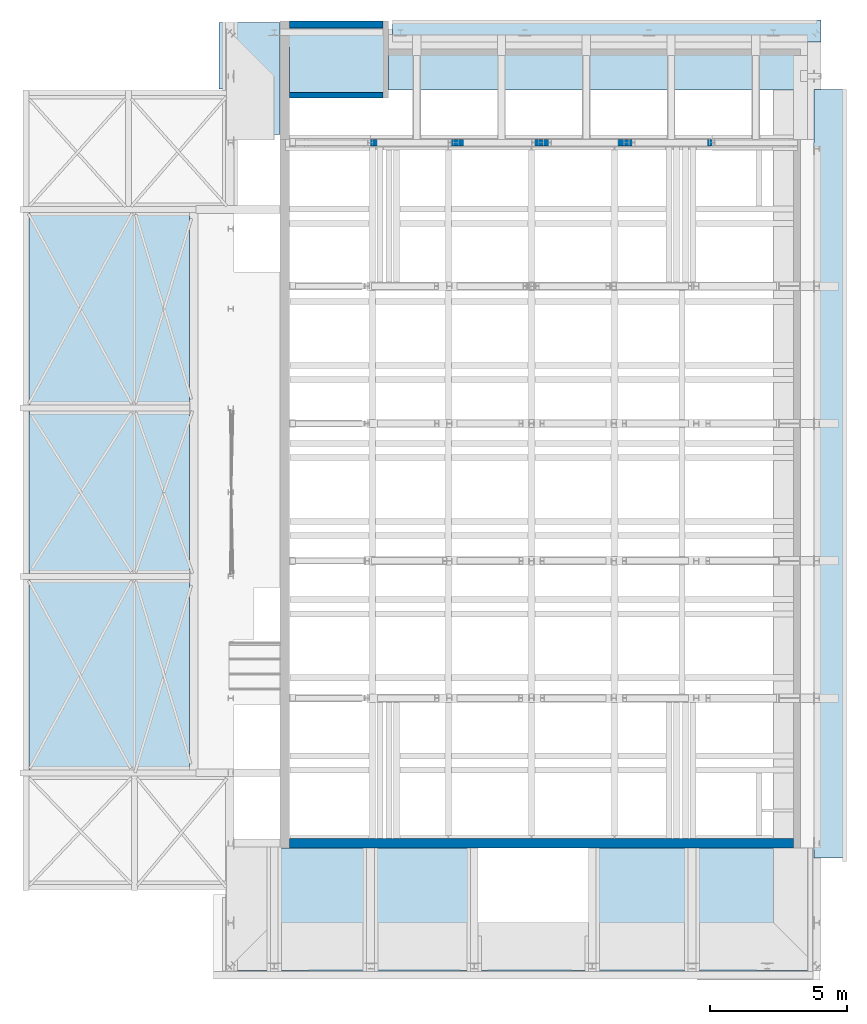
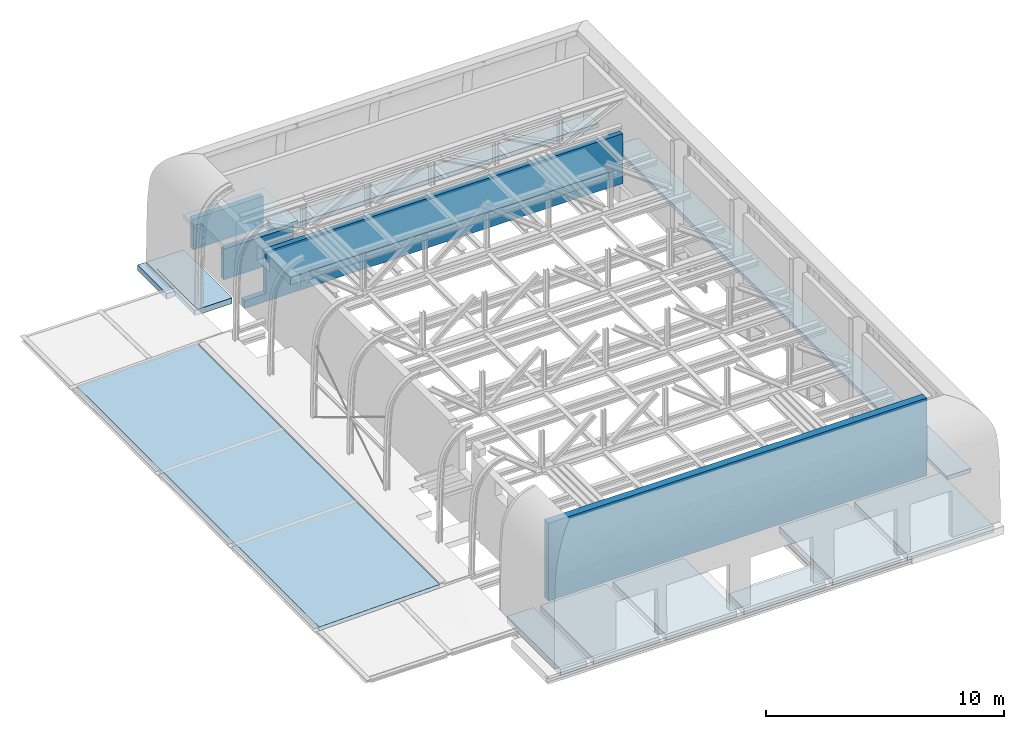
# One storey, part 25 of 29: 7 slabs, 4 walls, 9 openings.
"""IFC2X3 building model written with IfcOpenShell, lengths in millimetres."""

import ifcopenshell
import ifcopenshell.guid

model = None  # the IFC model being written
_history = None  # IfcOwnerHistory: only IFC2X3 demands one
_inside = {}  # id of a spatial element -> (the spatial element, [elements in it])
_under = {}  # id of a project, library or spatial element -> (it, [spatial elements below it])
_declared = {}  # id of a project -> (the project, [libraries it declares])
_typed = {}  # id of a type object -> (the type object, [elements of that type])
_made_of = {}  # id of a material, layer set ... -> (it, [elements and type objects made of it])


def new_model(schema):
    """Start an empty IFC model of exactly this schema.

    Asked for "IFC4X3", IfcOpenShell would pick the latest addendum, in which some entities
    have other attributes; the version numbers below select the first issue.
    IFC2X3 requires an IfcOwnerHistory on every rooted entity: one is made here for all.
    """
    global model, _history
    if schema == "IFC4X3":
        model = ifcopenshell.file(schema_version=(4, 3, 0, 0))
    else:
        model = ifcopenshell.file(schema=schema)
    _inside.clear()
    _under.clear()
    _declared.clear()
    _typed.clear()
    _made_of.clear()
    _history = None
    if model.schema == "IFC2X3":
        org = make("IfcOrganization", Name="unknown")
        user = make(
            "IfcPersonAndOrganization",
            ThePerson=make("IfcPerson", FamilyName="unknown"),
            TheOrganization=org,
        )
        app = make(
            "IfcApplication",
            ApplicationDeveloper=org,
            Version="unknown",
            ApplicationFullName="unknown",
            ApplicationIdentifier="unknown",
        )
        _history = make(
            "IfcOwnerHistory",
            OwningUser=user,
            OwningApplication=app,
            ChangeAction="ADDED",
            CreationDate=0,
        )
    return model


def make(cls, **values):
    """One entity of the class cls with the attributes given. An attribute that is None is left unset."""
    return model.create_entity(
        cls, **{name: value for name, value in values.items() if value is not None}
    )


def entity(cls, *values):
    """Any entity or typed value of the class cls, its attributes in the order of the schema. None: left unset."""
    e = model.create_entity(cls)
    for i, value in enumerate(values):
        if value is not None:
            e[i] = value
    return e


def rooted(cls, **values):
    """An entity with a GlobalId (a new one), such as an element, a storey or a relation."""
    return make(cls, GlobalId=ifcopenshell.guid.new(), OwnerHistory=_history, **values)


def si_unit(unit_type, name, prefix=None):
    """IfcSIUnit, for example si_unit("LENGTHUNIT", "METRE", prefix="MILLI")."""
    return make("IfcSIUnit", UnitType=unit_type, Prefix=prefix, Name=name)


def converted_unit(unit_type, name, factor, base, dimensions=None, offset=None):
    """IfcConversionBasedUnit, such as the inch: factor (a typed value) times the base unit."""
    return make(
        "IfcConversionBasedUnit"
        if offset is None
        else "IfcConversionBasedUnitWithOffset",
        ConversionOffset=offset,
        Dimensions=None
        if dimensions is None
        else entity("IfcDimensionalExponents", *dimensions),
        UnitType=unit_type,
        Name=name,
        ConversionFactor=make(
            "IfcMeasureWithUnit", ValueComponent=factor, UnitComponent=base
        ),
    )


def derived_unit(unit_type, elements):
    """IfcDerivedUnit: a product of units, each with its exponent."""
    return make(
        "IfcDerivedUnit",
        Elements=[
            make("IfcDerivedUnitElement", Unit=unit, Exponent=power)
            for unit, power in elements
        ],
        UnitType=unit_type,
    )


def assignment(units):
    """IfcUnitAssignment: the units of a project."""
    return None if units is None else make("IfcUnitAssignment", Units=units)


def point(xyz):
    """IfcCartesianPoint."""
    return None if xyz is None else make("IfcCartesianPoint", Coordinates=xyz)


def direction(xyz):
    """IfcDirection."""
    return None if xyz is None else make("IfcDirection", DirectionRatios=xyz)


def frame(location, z_axis=None, x_axis=None):
    """IfcAxis2Placement3D, a coordinate frame: its origin and axes. An axis left out is left unset."""
    return make(
        "IfcAxis2Placement3D",
        Location=point(location),
        Axis=direction(z_axis),
        RefDirection=direction(x_axis),
    )


def frame_2d(location, x_axis=None):
    """IfcAxis2Placement2D, a coordinate frame in the plane: its origin and x axis."""
    return make(
        "IfcAxis2Placement2D", Location=point(location), RefDirection=direction(x_axis)
    )


def origin():
    """The frame at (0, 0, 0) with its axes left unset."""
    return frame((0.0, 0.0, 0.0))


def origin_2d_with_axis():
    """The frame at (0, 0) in the plane with the x axis (1, 0) written out."""
    return frame_2d((0.0, 0.0), x_axis=(1.0, 0.0))


def place(relative_to, where):
    """IfcLocalPlacement: puts the frame where relative to a parent placement (None: the world)."""
    return make(
        "IfcLocalPlacement", PlacementRelTo=relative_to, RelativePlacement=where
    )


def context(
    kind, dimensions, precision=None, world=None, true_north=None, identifier=None
):
    """IfcGeometricRepresentationContext, for example the 3D "Model" context."""
    return make(
        "IfcGeometricRepresentationContext",
        ContextIdentifier=identifier,
        ContextType=kind,
        CoordinateSpaceDimension=dimensions,
        Precision=precision,
        WorldCoordinateSystem=world,
        TrueNorth=true_north,
    )


def subcontext(parent, identifier, kind, view, scale=None):
    """IfcGeometricRepresentationSubContext, for example "Body" below "Model"."""
    return make(
        "IfcGeometricRepresentationSubContext",
        ContextIdentifier=identifier,
        ContextType=kind,
        ParentContext=parent,
        TargetScale=scale,
        TargetView=view,
    )


def project(units=None, contexts=None):
    """IfcProject with its units and contexts."""
    return rooted(
        "IfcProject",
        Name="project",
        RepresentationContexts=contexts,
        UnitsInContext=assignment(units),
    )


def spatial(cls, under=None, at=None, **own):
    """A site, building, storey or space (cls), placed at a placement, below another one or the project."""
    s = rooted(cls, ObjectPlacement=at, **own)
    if under is not None:
        _under.setdefault(under.id(), (under, []))[1].append(s)
    return s


def polyline(points):
    """IfcPolyline through the points."""
    return make("IfcPolyline", Points=[point(p) for p in points])


def circle_curve(where, radius):
    """IfcCircle in the frame where."""
    return make("IfcCircle", Position=where, Radius=radius)


def parameter(value):
    """IfcParameterValue: where a trimmed curve begins or ends, as a parameter of its basis curve."""
    return model.create_entity("IfcParameterValue", value)


def trimmed(basis, trim1, trim2, sense, master):
    """IfcTrimmedCurve: the piece of a basis curve between two trims."""
    return make(
        "IfcTrimmedCurve",
        BasisCurve=basis,
        Trim1=trim1,
        Trim2=trim2,
        SenseAgreement=sense,
        MasterRepresentation=master,
    )


def segment(curve, same_sense, transition):
    """IfcCompositeCurveSegment."""
    return make(
        "IfcCompositeCurveSegment",
        Transition=transition,
        SameSense=same_sense,
        ParentCurve=curve,
    )


def composite_curve(segments, self_intersect=None):
    """IfcCompositeCurve: segments joined end to end."""
    return make("IfcCompositeCurve", Segments=segments, SelfIntersect=self_intersect)


def profile(cls, at=None, kind="AREA", **sizes):
    """A parametric profile (cls). Its sizes go by their IFC names, for example OverallWidth=200.0."""
    return make(cls, ProfileType=kind, Position=at, **sizes)


def rectangle(**sizes):
    """IfcRectangleProfileDef."""
    return profile("IfcRectangleProfileDef", **sizes)


def outline(outer, holes=None, kind="AREA"):
    """IfcArbitraryClosedProfileDef: a profile drawn as a closed curve; with holes, ...WithVoids."""
    if holes is None:
        return make("IfcArbitraryClosedProfileDef", ProfileType=kind, OuterCurve=outer)
    return make(
        "IfcArbitraryProfileDefWithVoids",
        ProfileType=kind,
        OuterCurve=outer,
        InnerCurves=holes,
    )


def extrude(swept, where, along, depth):
    """IfcExtrudedAreaSolid: the profile swept, set in the frame where, extruded along a direction by depth."""
    return make(
        "IfcExtrudedAreaSolid",
        SweptArea=swept,
        Position=where,
        ExtrudedDirection=direction(along),
        Depth=depth,
    )


def clip(a, b, op="DIFFERENCE"):
    """IfcBooleanClippingResult: the solid a cut by the half space b."""
    return make(
        "IfcBooleanClippingResult", Operator=op, FirstOperand=a, SecondOperand=b
    )


def halfspace(plane, agree):
    """IfcHalfSpaceSolid: all space on one side of the plane z = 0 of the frame plane."""
    return make(
        "IfcHalfSpaceSolid",
        BaseSurface=make("IfcPlane", Position=plane),
        AgreementFlag=agree,
    )


def bounded_halfspace(plane, agree, where, boundary):
    """IfcPolygonalBoundedHalfSpace: a half space limited to a polygon's prism."""
    return make(
        "IfcPolygonalBoundedHalfSpace",
        BaseSurface=make("IfcPlane", Position=plane),
        AgreementFlag=agree,
        Position=where,
        PolygonalBoundary=boundary,
    )


def faces_of(points, faces, orient=None, outer=None):
    """IfcFace entities. A face is a list of loops; a loop is a list of indices into points, from 0.

    orient and outer hold one flag for each loop. By default every Orientation is true, the
    first loop of a face is its IfcFaceOuterBound and the others are IfcFaceBound.
    """
    made = []
    for i, loops in enumerate(faces):
        bounds = []
        for j, loop in enumerate(loops):
            is_outer = j == 0 if outer is None else outer[i][j]
            bounds.append(
                make(
                    "IfcFaceOuterBound" if is_outer else "IfcFaceBound",
                    Bound=make("IfcPolyLoop", Polygon=[points[k] for k in loop]),
                    Orientation=True if orient is None else orient[i][j],
                )
            )
        made.append(make("IfcFace", Bounds=bounds))
    return made


def faceted_brep(points, faces, orient=None, outer=None, voids=None):
    """IfcFacetedBrep: a solid bounded by flat faces; with voids (closed shells), ...WithVoids."""
    shared = [point(p) for p in points]
    hull = make("IfcClosedShell", CfsFaces=faces_of(shared, faces, orient, outer))
    if voids is None:
        return make("IfcFacetedBrep", Outer=hull)
    return make(
        "IfcFacetedBrepWithVoids",
        Outer=hull,
        Voids=[
            make(cls, CfsFaces=faces_of(shared, fs, o, b)) for cls, fs, o, b in voids
        ],
    )


def shape(context_of_items, identifier, shape_type, items):
    """IfcShapeRepresentation: the items that make up one representation, for example the "Body"."""
    return make(
        "IfcShapeRepresentation",
        ContextOfItems=context_of_items,
        RepresentationIdentifier=identifier,
        RepresentationType=shape_type,
        Items=items,
    )


def material(Name=None, Category=None):
    """IfcMaterial."""
    return make("IfcMaterial", Name=Name, Category=Category)


def layer(
    of_material, thickness, ventilated=None, Name=None, Category=None, Priority=None
):
    """IfcMaterialLayer: one layer of a wall or slab, of a material (None: an air gap)."""
    return make(
        "IfcMaterialLayer",
        Material=of_material,
        LayerThickness=thickness,
        IsVentilated=ventilated,
        Name=Name,
        Category=Category,
        Priority=Priority,
    )


def layer_set(layers, Name=None):
    """IfcMaterialLayerSet."""
    return make("IfcMaterialLayerSet", MaterialLayers=layers, LayerSetName=Name)


def layer_usage(for_layer_set, set_direction, sense, offset, extent=None):
    """IfcMaterialLayerSetUsage: how a layer set lies in its element."""
    return make(
        "IfcMaterialLayerSetUsage",
        ForLayerSet=for_layer_set,
        LayerSetDirection=set_direction,
        DirectionSense=sense,
        OffsetFromReferenceLine=offset,
        ReferenceExtent=extent,
    )


def made_of(thing, what):
    """Note that an element or type object is made of a material, layer set ...; save() writes the relation."""
    if what is not None:
        _made_of.setdefault(what.id(), (what, []))[1].append(thing)
    return thing


def type_object(cls, material=None, **own):
    """A type object (cls), such as IfcWallType, which elements share."""
    return made_of(rooted(cls, **own), material)


def element(
    cls,
    number,
    at=None,
    inside=None,
    cuts=None,
    type_object=None,
    material=None,
    context=None,
    identifier="Body",
    shape_type=None,
    held_by="IfcProductDefinitionShape",
    body=None,
    shapes=None,
    **own,
):
    """One element of the class cls, such as IfcWall. Its Tag is "e" and its number.

    at: its placement. inside: the storey or other place that contains it. cuts: it is an
    opening in that element (IfcRelVoidsElement). A single representation is given by context,
    identifier, shape_type and body (its items); several are given by shapes. held_by: the class
    of the entity that holds the representations. save() writes the other relations.
    """
    e = rooted(cls, Tag="e%d" % number, ObjectPlacement=at, **own)
    if body is not None:
        shapes = [shape(context, identifier, shape_type, body)]
    if shapes is not None:
        e.Representation = make(held_by, Representations=shapes)
    if inside is not None:
        _inside.setdefault(inside.id(), (inside, []))[1].append(e)
    if cuts is not None:
        rooted(
            "IfcRelVoidsElement", RelatingBuildingElement=cuts, RelatedOpeningElement=e
        )
    if type_object is not None:
        _typed.setdefault(type_object.id(), (type_object, []))[1].append(e)
    return made_of(e, material)


def aggregate(whole, parts):
    """IfcRelAggregates: a whole, such as a stair, and the parts it consists of."""
    return rooted("IfcRelAggregates", RelatingObject=whole, RelatedObjects=parts)


def save(model, path):
    """Write the relations noted so far, then the file.

    IfcRelAggregates (storeys below a building ...), IfcRelContainedInSpatialStructure (elements
    in a storey), IfcRelDefinesByType, IfcRelAssociatesMaterial and IfcRelDeclares: one each for
    every whole, place, type object, material and project.
    """
    for whole, parts in _under.values():
        aggregate(whole, parts)
    for where, things in _inside.values():
        rooted(
            "IfcRelContainedInSpatialStructure",
            RelatedElements=things,
            RelatingStructure=where,
        )
    for kind, things in _typed.values():
        rooted("IfcRelDefinesByType", RelatedObjects=things, RelatingType=kind)
    for what, things in _made_of.values():
        rooted("IfcRelAssociatesMaterial", RelatedObjects=things, RelatingMaterial=what)
    for by, libraries in _declared.values():
        rooted("IfcRelDeclares", RelatingContext=by, RelatedDefinitions=libraries)
    model.write(path)


model = new_model("IFC2X3")

# Units and contexts
model_context = context("Model", 3, precision=0.01, world=origin(), true_north=direction((6.12303176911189e-17, 1.0)))
body_context = subcontext(model_context, "Body", "Model", "MODEL_VIEW")
ifc_project = project(units=[si_unit("LENGTHUNIT", "METRE", prefix="MILLI"), si_unit("AREAUNIT", "SQUARE_METRE", prefix="MILLI"), si_unit("VOLUMEUNIT", "CUBIC_METRE"), converted_unit("PLANEANGLEUNIT", "DEGREE", entity("IfcRatioMeasure", 0.0174532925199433), si_unit("PLANEANGLEUNIT", "RADIAN"), dimensions=[0, 0, 0, 0, 0, 0, 0]), si_unit("MASSUNIT", "GRAM", prefix="KILO"), derived_unit("MASSDENSITYUNIT", [(si_unit("MASSUNIT", "GRAM", prefix="KILO"), 1), (si_unit("LENGTHUNIT", "METRE"), -3)]), derived_unit("MOMENTOFINERTIAUNIT", [(si_unit("LENGTHUNIT", "METRE"), 4)]), si_unit("TIMEUNIT", "SECOND"), si_unit("FREQUENCYUNIT", "HERTZ"), si_unit("THERMODYNAMICTEMPERATUREUNIT", "DEGREE_CELSIUS"), derived_unit("THERMALTRANSMITTANCEUNIT", [(si_unit("MASSUNIT", "GRAM", prefix="KILO"), 1), (si_unit("THERMODYNAMICTEMPERATUREUNIT", "KELVIN"), -1), (si_unit("TIMEUNIT", "SECOND"), -3)]), derived_unit("VOLUMETRICFLOWRATEUNIT", [(si_unit("LENGTHUNIT", "METRE"), 3), (si_unit("TIMEUNIT", "SECOND"), -1)]), si_unit("ELECTRICCURRENTUNIT", "AMPERE"), si_unit("ELECTRICVOLTAGEUNIT", "VOLT"), si_unit("POWERUNIT", "WATT"), si_unit("FORCEUNIT", "NEWTON", prefix="KILO"), si_unit("ILLUMINANCEUNIT", "LUX"), si_unit("LUMINOUSFLUXUNIT", "LUMEN"), si_unit("LUMINOUSINTENSITYUNIT", "CANDELA"), derived_unit("USERDEFINED", [(si_unit("MASSUNIT", "GRAM", prefix="KILO"), -1), (si_unit("LENGTHUNIT", "METRE"), -2), (si_unit("TIMEUNIT", "SECOND"), 3), (si_unit("LUMINOUSFLUXUNIT", "LUMEN"), 1)]), derived_unit("LINEARVELOCITYUNIT", [(si_unit("LENGTHUNIT", "METRE"), 1), (si_unit("TIMEUNIT", "SECOND"), -1)]), si_unit("PRESSUREUNIT", "PASCAL"), derived_unit("USERDEFINED", [(si_unit("LENGTHUNIT", "METRE"), -2), (si_unit("MASSUNIT", "GRAM", prefix="KILO"), 1), (si_unit("TIMEUNIT", "SECOND"), -2)]), derived_unit("LINEARFORCEUNIT", [(si_unit("MASSUNIT", "GRAM", prefix="KILO"), 1), (si_unit("LENGTHUNIT", "METRE"), 1), (si_unit("TIMEUNIT", "SECOND"), -2), (si_unit("LENGTHUNIT", "METRE"), -1)]), derived_unit("PLANARFORCEUNIT", [(si_unit("MASSUNIT", "GRAM", prefix="KILO"), 1), (si_unit("LENGTHUNIT", "METRE"), 1), (si_unit("TIMEUNIT", "SECOND"), -2), (si_unit("LENGTHUNIT", "METRE"), -2)])], contexts=[model_context])

# Site, building, storey
site_placement = place(None, origin())
site = spatial("IfcSite", under=ifc_project, at=site_placement, Name="Theater aan de Parade", CompositionType="ELEMENT")
building_placement = place(site_placement, origin())
building = spatial("IfcBuilding", under=site, at=building_placement, Name="Theater aan de Parade", CompositionType="ELEMENT")
storey_placement = place(building_placement, frame((0.0, 0.0, 20300.0)))
storey = spatial("IfcBuildingStorey", under=building, at=storey_placement, Name="05 vijfde verdieping", CompositionType="ELEMENT", Elevation=20300.0)

# Slab, openings
ifc_material_1 = material(Name="00_PBT_MAT_systeemvloer")
ifc_layer_1 = layer(ifc_material_1, 320.0)
ifc_layer_set_1 = layer_set([ifc_layer_1], Name="Floor:28_PBT_FL_kanaalplaat_d=320")
ifc_layer_usage_1 = layer_usage(ifc_layer_set_1, "AXIS3", "POSITIVE", 0.0)
slab_type_1 = type_object("IfcSlabType", Name="Floor:28_PBT_FL_kanaalplaat_d=320", PredefinedType="FLOOR", material=ifc_layer_set_1)
slab_1_placement = place(storey_placement, frame((65698.9041808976, 14982.0, -400.0)))
slab_1 = element("IfcSlab", 1, at=slab_1_placement, inside=storey, type_object=slab_type_1, material=ifc_layer_usage_1, Name="Floor:28_PBT_FL_kanaalplaat_d=320", ObjectType="Floor:28_PBT_FL_kanaalplaat_d=320", PredefinedType="FLOOR", context=body_context, shape_type="SweptSolid", body=[
    extrude(outline(polyline([(-10508.5479095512, -2406.500121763), (10678.5479095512, -2406.500121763), (10678.5479095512, 2406.50012176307), (9063.63493108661, 2406.50012176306), (9063.63493108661, 2231.50012176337), (1780.59242004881, 2231.50012176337), (1780.59242004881, -979.132872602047), (-2511.40750639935, -979.132872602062), (-2511.40750639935, 2231.50012176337), (-10508.5479095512, 2231.50012176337), (-10508.5479095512, -2406.500121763)])), frame((10508.5479095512, 2246.50012176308, 320.0), z_axis=(0.0, 0.0, -1.0), x_axis=(-1.0, 0.0, 0.0)), (0.0, 0.0, 1.0), 320.000000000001),
])
opening_1_placement = place(slab_1_placement, origin())
element("IfcOpeningElement", 2, at=opening_1_placement, cuts=slab_1, ObjectType="Opening", context=body_context, shape_type="SweptSolid", body=[
    extrude(rectangle(XDim=21831.6919122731, YDim=320.000000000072, at=origin_2d_with_axis()), frame((10151.249862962, -160.0, 0.0)), (0.0, 0.0, 1.0), 320.000000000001),
])
opening_2_placement = place(slab_1_placement, frame((8462.9554895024, -20.0, -5.0)))
element("IfcOpeningElement", 3, at=opening_2_placement, cuts=slab_1, ObjectType="Opening", context=body_context, shape_type="Brep", body=[
    faceted_brep([(105.0, 0.0, 325.0), (425.0, 0.0, 325.0), (105.0, 4498.00024352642, 325.0), (425.0, 4498.00024352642, 325.0), (530.0, 500.0, 2.0), (530.0, 0.0, 2.0), (530.0, 0.0, 1.0), (530.0, 500.0, 1.0), (0.0, 0.0, 2.0), (0.0, 0.0, 1.0), (105.0, 0.0, 1.0), (425.0, 0.0, 1.0), (105.0, 0.0, 0.0), (425.0, 0.0, 0.0), (425.0, 0.0, 2.0), (105.0, 0.0, 2.0), (425.0, 4498.00024352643, 0.0), (105.0, 4498.00024352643, 1.0), (105.0, 4498.00024352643, 2.0), (105.0, 4498.00024352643, 0.0), (0.0, 4498.00024352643, 1.0), (0.0, 4498.00024352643, 2.0), (425.0, 500.0, 1.0), (425.0, 500.0, 2.0), (105.0, 400.0, 2.0), (105.0, 400.0, 1.0), (105.0, 4398.00024352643, 1.0), (105.0, 4398.00024352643, 2.0), (0.0, 4398.00024352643, 2.0), (0.0, 4398.00024352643, 1.0), (0.0, 400.0, 2.0), (0.0, 400.0, 1.0)], [[[0, 1, 2]], [[3, 2, 1]], [[4, 5, 6]], [[6, 7, 4]], [[8, 9, 10]], [[11, 10, 12]], [[12, 13, 11]], [[5, 11, 6]], [[11, 14, 10]], [[1, 0, 15]], [[10, 14, 15]], [[14, 11, 5]], [[15, 14, 1]], [[15, 8, 10]], [[16, 17, 18]], [[17, 16, 19]], [[20, 21, 17]], [[18, 3, 16]], [[3, 18, 2]], [[21, 18, 17]], [[11, 13, 22]], [[1, 14, 23]], [[22, 16, 23]], [[16, 22, 13]], [[23, 3, 1]], [[3, 23, 16]], [[0, 24, 15]], [[24, 0, 2]], [[12, 10, 25]], [[12, 25, 19]], [[24, 26, 25]], [[27, 2, 18]], [[2, 27, 24]], [[26, 17, 19]], [[26, 19, 25]], [[27, 26, 24]], [[13, 12, 16]], [[19, 16, 12]], [[28, 27, 18]], [[18, 21, 28]], [[20, 17, 26]], [[26, 29, 20]], [[28, 21, 20]], [[20, 29, 28]], [[27, 28, 29]], [[29, 26, 27]], [[23, 14, 4]], [[5, 4, 14]], [[7, 6, 11]], [[11, 22, 7]], [[23, 4, 7]], [[7, 22, 23]], [[30, 8, 15]], [[15, 24, 30]], [[25, 10, 9]], [[9, 31, 25]], [[30, 24, 25]], [[25, 31, 30]], [[8, 30, 31]], [[31, 9, 8]]]),
])
opening_3_placement = place(slab_1_placement, frame((12754.9554159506, -20.0, -5.0)))
element("IfcOpeningElement", 4, at=opening_3_placement, cuts=slab_1, ObjectType="Opening", context=body_context, shape_type="Brep", body=[
    faceted_brep([(105.0, 0.0, 325.0), (425.0, 0.0, 325.0), (105.0, 4498.00024352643, 325.0), (425.0, 4498.00024352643, 325.0), (530.0, 500.0, 2.0), (530.0, 0.0, 2.0), (530.0, 0.0, 1.0), (530.0, 500.0, 1.0), (0.0, 0.0, 2.0), (0.0, 0.0, 1.0), (105.0, 0.0, 1.0), (425.0, 0.0, 1.0), (105.0, 0.0, 0.0), (425.0, 0.0, 0.0), (425.0, 0.0, 2.0), (105.0, 0.0, 2.0), (105.0, 4498.00024352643, 0.0), (425.0, 4498.00024352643, 1.0), (425.0, 4498.00024352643, 0.0), (425.0, 4498.00024352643, 2.0), (530.0, 4498.00024352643, 2.0), (530.0, 4498.00024352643, 1.0), (425.0, 500.0, 1.0), (425.0, 500.0, 2.0), (425.0, 4348.00024352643, 1.0), (425.0, 4348.00024352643, 2.0), (105.0, 400.0, 2.0), (105.0, 400.0, 1.0), (530.0, 4348.00024352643, 2.0), (530.0, 4348.00024352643, 1.0), (0.0, 400.0, 2.0), (0.0, 400.0, 1.0)], [[[0, 1, 2]], [[3, 2, 1]], [[4, 5, 6]], [[6, 7, 4]], [[8, 9, 10]], [[11, 10, 12]], [[12, 13, 11]], [[5, 11, 6]], [[11, 14, 10]], [[1, 0, 15]], [[10, 14, 15]], [[14, 11, 5]], [[15, 14, 1]], [[15, 8, 10]], [[16, 17, 18]], [[17, 16, 19]], [[17, 20, 21]], [[19, 2, 3]], [[2, 19, 16]], [[19, 20, 17]], [[13, 22, 11]], [[22, 13, 18]], [[1, 14, 23]], [[1, 23, 3]], [[22, 24, 23]], [[24, 18, 17]], [[18, 24, 22]], [[25, 19, 3]], [[25, 3, 23]], [[24, 25, 23]], [[15, 0, 26]], [[12, 10, 27]], [[26, 2, 16]], [[2, 26, 0]], [[27, 16, 12]], [[16, 27, 26]], [[13, 12, 18]], [[16, 18, 12]], [[19, 25, 20]], [[28, 20, 25]], [[21, 29, 24]], [[24, 17, 21]], [[28, 25, 24]], [[24, 29, 28]], [[20, 28, 29]], [[29, 21, 20]], [[23, 14, 5]], [[5, 4, 23]], [[7, 6, 11]], [[11, 22, 7]], [[23, 4, 7]], [[7, 22, 23]], [[30, 8, 15]], [[15, 26, 30]], [[27, 10, 9]], [[9, 31, 27]], [[30, 26, 27]], [[27, 31, 30]], [[8, 30, 31]], [[31, 9, 8]]]),
])
opening_4_placement = place(slab_1_placement, frame((4685.95506548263, -20.0, -5.0)))
element("IfcOpeningElement", 5, at=opening_4_placement, cuts=slab_1, ObjectType="Opening", context=body_context, shape_type="Brep", body=[
    faceted_brep([(105.0, 0.0, 325.0), (425.0, 0.0, 325.0), (105.0, 4498.00024352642, 325.0), (425.0, 4498.00024352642, 325.0), (0.0, 0.0, 2.0), (0.0, 0.0, 1.0), (105.0, 0.0, 1.0), (425.0, 0.0, 1.0), (105.0, 0.0, 0.0), (425.0, 0.0, 0.0), (530.0, 0.0, 2.0), (530.0, 0.0, 1.0), (425.0, 0.0, 2.0), (105.0, 0.0, 2.0), (105.0, 4498.00024352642, 1.0), (0.0, 4498.00024352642, 1.0), (0.0, 4498.00024352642, 2.0), (105.0, 4498.00024352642, 0.0), (425.0, 4498.00024352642, 1.0), (425.0, 4498.00024352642, 0.0), (530.0, 4498.00024352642, 1.0), (530.0, 4498.00024352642, 2.0), (425.0, 4498.00024352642, 2.0), (105.0, 4498.00024352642, 2.0), (425.0, 500.0, 1.0), (425.0, 500.0, 2.0), (425.0, 4348.00024352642, 1.0), (425.0, 4348.00024352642, 2.0), (105.0, 400.0, 2.0), (105.0, 400.0, 1.0), (105.0, 4398.00024352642, 1.0), (105.0, 4398.00024352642, 2.0), (530.0, 4348.00024352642, 2.0), (530.0, 4348.00024352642, 1.0), (0.0, 4398.00024352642, 2.0), (0.0, 4398.00024352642, 1.0), (530.0, 500.0, 2.0), (530.0, 500.0, 1.0), (0.0, 400.0, 2.0), (0.0, 400.0, 1.0)], [[[0, 1, 2]], [[3, 2, 1]], [[4, 5, 6]], [[7, 6, 8]], [[8, 9, 7]], [[10, 7, 11]], [[7, 12, 6]], [[1, 0, 13]], [[6, 12, 13]], [[12, 7, 10]], [[13, 12, 1]], [[13, 4, 6]], [[14, 15, 16]], [[17, 14, 18]], [[18, 19, 17]], [[20, 18, 21]], [[14, 22, 18]], [[23, 2, 3]], [[23, 22, 14]], [[21, 18, 22]], [[3, 22, 23]], [[14, 16, 23]], [[9, 24, 7]], [[24, 9, 19]], [[1, 12, 25]], [[1, 25, 3]], [[24, 26, 25]], [[26, 19, 18]], [[19, 26, 24]], [[27, 22, 3]], [[27, 3, 25]], [[26, 27, 25]], [[0, 28, 13]], [[28, 0, 2]], [[8, 6, 29]], [[8, 29, 17]], [[28, 30, 29]], [[31, 2, 23]], [[2, 31, 28]], [[30, 14, 17]], [[30, 17, 29]], [[31, 30, 28]], [[9, 8, 19]], [[17, 19, 8]], [[22, 27, 21]], [[32, 21, 27]], [[20, 33, 26]], [[26, 18, 20]], [[32, 27, 26]], [[26, 33, 32]], [[21, 32, 33]], [[33, 20, 21]], [[34, 31, 23]], [[23, 16, 34]], [[15, 14, 30]], [[30, 35, 15]], [[34, 16, 15]], [[15, 35, 34]], [[31, 34, 35]], [[35, 30, 31]], [[25, 12, 10]], [[10, 36, 25]], [[37, 11, 7]], [[7, 24, 37]], [[36, 10, 11]], [[11, 37, 36]], [[25, 36, 37]], [[37, 24, 25]], [[38, 4, 13]], [[13, 28, 38]], [[29, 6, 5]], [[5, 39, 29]], [[38, 28, 29]], [[29, 39, 38]], [[4, 38, 39]], [[39, 5, 4]]]),
])
opening_5_placement = place(slab_1_placement, frame((1179.91297846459, -20.0, -5.0)))
element("IfcOpeningElement", 6, at=opening_5_placement, cuts=slab_1, ObjectType="Opening", context=body_context, shape_type="Brep", body=[
    faceted_brep([(105.0, 0.0, 325.0), (425.0, 0.0, 325.0), (105.0, 4533.00024352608, 325.0), (425.0, 4533.00024352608, 325.0), (530.0, 4533.00024352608, 2.0), (530.0, 4433.00024352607, 2.0), (530.0, 4433.00024352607, 1.0), (530.0, 4533.00024352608, 1.0), (530.0, 500.0, 2.0), (530.0, 0.0, 2.0), (530.0, 0.0, 1.0), (530.0, 500.0, 1.0), (0.0, 0.0, 2.0), (0.0, 0.0, 1.0), (105.0, 0.0, 1.0), (425.0, 0.0, 1.0), (105.0, 0.0, 0.0), (425.0, 0.0, 0.0), (425.0, 0.0, 2.0), (105.0, 0.0, 2.0), (105.0, 4533.00024352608, 1.0), (0.0, 4533.00024352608, 1.0), (0.0, 4533.00024352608, 2.0), (105.0, 4533.00024352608, 0.0), (425.0, 4533.00024352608, 1.0), (425.0, 4533.00024352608, 0.0), (425.0, 4533.00024352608, 2.0), (105.0, 4533.00024352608, 2.0), (425.0, 500.0, 1.0), (425.0, 500.0, 2.0), (425.0, 4433.00024352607, 1.0), (425.0, 4433.00024352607, 2.0), (105.0, 400.0, 2.0), (105.0, 400.0, 1.0), (105.0, 4433.00024352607, 1.0), (105.0, 4433.00024352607, 2.0), (0.0, 4433.00024352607, 2.0), (0.0, 4433.00024352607, 1.0), (0.0, 400.0, 2.0), (0.0, 400.0, 1.0)], [[[0, 1, 2]], [[3, 2, 1]], [[4, 5, 6]], [[6, 7, 4]], [[8, 9, 10]], [[10, 11, 8]], [[12, 13, 14]], [[15, 14, 16]], [[16, 17, 15]], [[9, 15, 10]], [[15, 18, 14]], [[1, 0, 19]], [[14, 18, 19]], [[18, 15, 9]], [[19, 18, 1]], [[19, 12, 14]], [[20, 21, 22]], [[23, 20, 24]], [[24, 25, 23]], [[7, 24, 4]], [[20, 26, 24]], [[27, 2, 3]], [[27, 26, 20]], [[4, 24, 26]], [[3, 26, 27]], [[20, 22, 27]], [[17, 28, 15]], [[28, 17, 25]], [[1, 18, 29]], [[1, 29, 3]], [[28, 30, 29]], [[30, 25, 24]], [[25, 30, 28]], [[31, 26, 3]], [[31, 3, 29]], [[30, 31, 29]], [[0, 32, 19]], [[32, 0, 2]], [[16, 14, 33]], [[16, 33, 23]], [[32, 34, 33]], [[35, 2, 27]], [[2, 35, 32]], [[34, 20, 23]], [[34, 23, 33]], [[35, 34, 32]], [[17, 16, 25]], [[23, 25, 16]], [[26, 31, 5]], [[5, 4, 26]], [[7, 6, 30]], [[30, 24, 7]], [[5, 31, 30]], [[30, 6, 5]], [[36, 35, 27]], [[27, 22, 36]], [[21, 20, 34]], [[34, 37, 21]], [[36, 22, 21]], [[21, 37, 36]], [[35, 36, 37]], [[37, 34, 35]], [[29, 18, 9]], [[9, 8, 29]], [[11, 10, 15]], [[15, 28, 11]], [[29, 8, 11]], [[11, 28, 29]], [[38, 12, 19]], [[19, 32, 38]], [[33, 14, 13]], [[13, 39, 33]], [[38, 32, 33]], [[33, 39, 38]], [[12, 38, 39]], [[39, 13, 12]]]),
])
opening_6_placement = place(slab_1_placement, frame((-445.0, -7.29999999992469, -5.0)))
element("IfcOpeningElement", 7, at=opening_6_placement, cuts=slab_1, ObjectType="Opening", context=body_context, shape_type="Brep", body=[
    faceted_brep([(0.0, 0.0, 1.0), (0.0, 0.0, 2.0), (0.0, 500.0, 2.0), (0.0, 500.0, 1.0), (445.0, 0.0, 1.0), (550.0, 0.0, 1.0), (550.0, 0.0, 2.0), (445.0, 0.0, 0.0), (105.0, 0.0, 1.0), (105.0, 0.0, 0.0), (105.0, 0.0, 2.0), (445.0, 0.0, 2.0), (445.0, 0.0, 325.0), (105.0, 0.0, 325.0), (105.0, 7075.30000000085, 325.0), (445.0, 7075.30000000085, 0.0), (105.0, 7075.30000000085, 0.0), (445.0, 7075.30000000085, 325.0), (105.0, 500.0, 1.0), (105.0, 500.0, 2.0), (445.0, 400.0, 2.0), (445.0, 400.0, 1.0), (550.0, 400.0, 2.0), (550.0, 400.0, 1.0)], [[[0, 1, 2]], [[2, 3, 0]], [[4, 5, 6]], [[7, 4, 8]], [[8, 9, 7]], [[0, 8, 1]], [[4, 10, 8]], [[11, 12, 13]], [[11, 10, 4]], [[1, 8, 10]], [[13, 10, 11]], [[4, 6, 11]], [[14, 15, 16]], [[15, 14, 17]], [[18, 9, 8]], [[19, 10, 13]], [[19, 16, 18]], [[9, 18, 16]], [[13, 14, 19]], [[16, 19, 14]], [[17, 13, 12]], [[13, 17, 14]], [[20, 12, 11]], [[21, 4, 7]], [[15, 17, 20]], [[12, 20, 17]], [[7, 15, 21]], [[20, 21, 15]], [[16, 7, 9]], [[7, 16, 15]], [[1, 10, 19]], [[19, 2, 1]], [[8, 0, 3]], [[3, 18, 8]], [[3, 2, 19]], [[19, 18, 3]], [[20, 6, 22]], [[6, 20, 11]], [[5, 4, 21]], [[21, 23, 5]], [[21, 20, 22]], [[22, 23, 21]], [[23, 22, 6]], [[6, 5, 23]]]),
])
opening_7_placement = place(slab_1_placement, origin())
element("IfcOpeningElement", 8, at=opening_7_placement, cuts=slab_1, ObjectType="Opening", context=body_context, shape_type="SweptSolid", body=[
    extrude(rectangle(XDim=1677.35192006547, YDim=320.000000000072, at=origin_2d_with_axis()), frame((818.675960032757, 4653.00024352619, 0.0), z_axis=(0.0, 0.0, 1.0), x_axis=(-1.0, 0.0, 0.0)), (0.0, 0.0, 1.0), 320.000000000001),
])
opening_8_placement = place(slab_1_placement, frame((16391.6042408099, -20.0, -5.0)))
element("IfcOpeningElement", 9, at=opening_8_placement, cuts=slab_1, ObjectType="Opening", context=body_context, shape_type="Brep", body=[
    faceted_brep([(105.0, 0.0, 325.0), (425.0, 0.0, 325.0), (105.0, 4498.00024352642, 325.0), (425.0, 4498.00024352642, 325.0), (0.0, 0.0, 2.0), (0.0, 0.0, 1.0), (105.0, 0.0, 1.0), (425.0, 0.0, 1.0), (105.0, 0.0, 0.0), (425.0, 0.0, 0.0), (530.0, 0.0, 2.0), (530.0, 0.0, 1.0), (425.0, 0.0, 2.0), (105.0, 0.0, 2.0), (105.0, 4498.00024352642, 1.0), (0.0, 4498.00024352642, 1.0), (0.0, 4498.00024352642, 2.0), (105.0, 4498.00024352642, 0.0), (425.0, 4498.00024352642, 1.0), (425.0, 4498.00024352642, 0.0), (530.0, 4498.00024352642, 1.0), (530.0, 4498.00024352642, 2.0), (425.0, 4498.00024352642, 2.0), (105.0, 4498.00024352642, 2.0), (425.0, 500.0, 1.0), (425.0, 500.0, 2.0), (425.0, 4348.00024352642, 1.0), (425.0, 4348.00024352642, 2.0), (105.0, 400.0, 2.0), (105.0, 400.0, 1.0), (105.0, 4398.00024352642, 1.0), (105.0, 4398.00024352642, 2.0), (530.0, 4348.00024352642, 2.0), (530.0, 4348.00024352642, 1.0), (0.0, 4398.00024352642, 2.0), (0.0, 4398.00024352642, 1.0), (530.0, 500.0, 2.0), (530.0, 500.0, 1.0), (0.0, 400.0, 2.0), (0.0, 400.0, 1.0)], [[[0, 1, 2]], [[3, 2, 1]], [[4, 5, 6]], [[7, 6, 8]], [[8, 9, 7]], [[10, 7, 11]], [[7, 12, 6]], [[1, 0, 13]], [[6, 12, 13]], [[12, 7, 10]], [[13, 12, 1]], [[13, 4, 6]], [[14, 15, 16]], [[17, 14, 18]], [[18, 19, 17]], [[20, 18, 21]], [[14, 22, 18]], [[23, 2, 3]], [[23, 22, 14]], [[21, 18, 22]], [[3, 22, 23]], [[14, 16, 23]], [[9, 24, 7]], [[24, 9, 19]], [[1, 12, 25]], [[1, 25, 3]], [[24, 26, 25]], [[26, 19, 18]], [[19, 26, 24]], [[27, 22, 3]], [[27, 3, 25]], [[26, 27, 25]], [[0, 28, 13]], [[28, 0, 2]], [[8, 6, 29]], [[8, 29, 17]], [[28, 30, 29]], [[31, 2, 23]], [[2, 31, 28]], [[30, 14, 17]], [[30, 17, 29]], [[31, 30, 28]], [[9, 8, 19]], [[17, 19, 8]], [[22, 27, 21]], [[32, 21, 27]], [[20, 33, 26]], [[26, 18, 20]], [[32, 27, 26]], [[26, 33, 32]], [[21, 32, 33]], [[33, 20, 21]], [[34, 31, 23]], [[23, 16, 34]], [[15, 14, 30]], [[30, 35, 15]], [[34, 16, 15]], [[15, 35, 34]], [[31, 34, 35]], [[35, 30, 31]], [[25, 12, 10]], [[10, 36, 25]], [[37, 11, 7]], [[7, 24, 37]], [[36, 10, 11]], [[11, 37, 36]], [[25, 36, 37]], [[37, 24, 25]], [[38, 4, 13]], [[13, 28, 38]], [[29, 6, 5]], [[5, 39, 29]], [[38, 28, 29]], [[29, 39, 38]], [[4, 38, 39]], [[39, 5, 4]]]),
])

# Slabs
ifc_material_2 = material(Name="00_PBT_MAT_beton prefab")
ifc_layer_2 = layer(ifc_material_2, 200.0)
ifc_layer_set_2 = layer_set([ifc_layer_2], Name="Floor:28_PBT_FL_beton prefab_d=200")
ifc_layer_usage_2 = layer_usage(ifc_layer_set_2, "AXIS3", "POSITIVE", 0.0)
slab_type_2 = type_object("IfcSlabType", Name="Floor:28_PBT_FL_beton prefab_d=200", PredefinedType="FLOOR", material=ifc_layer_set_2)
slab_2_placement = place(storey_placement, origin())
element("IfcSlab", 10, at=slab_2_placement, inside=storey, type_object=slab_type_2, material=ifc_layer_usage_2, Name="Floor:28_PBT_FL_beton prefab_d=200", ObjectType="Floor:28_PBT_FL_beton prefab_d=200", PredefinedType="FLOOR", context=body_context, shape_type="SweptSolid", body=[
    extrude(outline(polyline([(306.709219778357, -1433.62989356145), (1246.70921977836, -1433.62989356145), (1246.70921977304, 2517.25978712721), (-1553.41843955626, 2517.25978712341), (-1553.41843955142, -1083.62989356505), (306.709219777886, -1083.62989356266), (306.709219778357, -1433.62989356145)])), frame((68789.8859945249, 48315.2907802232, 1690.0), z_axis=(0.0, 0.0, -1.0), x_axis=(0.0, 1.0, 0.0)), (0.0, 0.0, 1.0), 200.000000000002),
])
ifc_layer_usage_3 = layer_usage(ifc_layer_set_2, "AXIS3", "POSITIVE", 0.0)
slab_type_3 = type_object("IfcSlabType", Name="Floor:28_PBT_FL_beton prefab_d=200", PredefinedType="FLOOR", material=ifc_layer_set_2)
slab_3_placement = place(storey_placement, origin())
element("IfcSlab", 11, at=slab_3_placement, inside=storey, type_object=slab_type_3, material=ifc_layer_usage_3, Name="Floor:28_PBT_FL_beton prefab_d=200", ObjectType="Floor:28_PBT_FL_beton prefab_d=200", PredefinedType="FLOOR", context=body_context, shape_type="SweptSolid", body=[
    extrude(rectangle(XDim=27980.815012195, YDim=1181.43522749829, at=frame_2d((6.83940015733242e-10, 0.0), x_axis=(1.0, 0.0))), frame((87395.2823862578, 33080.4074175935, -70.0), z_axis=(0.0, 0.0, -1.0), x_axis=(0.0, 1.0, 0.0)), (0.0, 0.0, 1.0), 199.999999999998),
])
ifc_material_3 = material(Name="00_PBT_MAT_beton t.p.g._C30/37")
ifc_layer_3 = layer(ifc_material_3, 400.0)
ifc_layer_set_3 = layer_set([ifc_layer_3], Name="Floor:28_PBT_FL_beton t.p.g._d=400_C30/37")
ifc_layer_usage_4 = layer_usage(ifc_layer_set_3, "AXIS3", "POSITIVE", 0.0)
slab_type_4 = type_object("IfcSlabType", Name="Floor:28_PBT_FL_beton t.p.g._d=400_C30/37", PredefinedType="FLOOR", material=ifc_layer_set_3)
slab_4_placement = place(storey_placement, origin())
element("IfcSlab", 12, at=slab_4_placement, inside=storey, type_object=slab_type_4, material=ifc_layer_usage_4, Name="Floor:28_PBT_FL_beton t.p.g._d=400_C30/37", ObjectType="Floor:28_PBT_FL_beton t.p.g._d=400_C30/37", PredefinedType="FLOOR", context=body_context, shape_type="SweptSolid", body=[
    extrude(rectangle(XDim=2019.99999999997, YDim=15448.0225358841, at=frame_2d((0.0, -8.64019966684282e-12), x_axis=(1.0, 0.0))), frame((78831.1570495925, 48062.0, -1325.0), z_axis=(0.0, 0.0, -1.0), x_axis=(0.0, 1.0, 0.0)), (0.0, 0.0, 1.0), 400.0),
])
ifc_layer_usage_5 = layer_usage(ifc_layer_set_2, "AXIS3", "POSITIVE", 0.0)
slab_type_5 = type_object("IfcSlabType", Name="Floor:28_PBT_FL_beton prefab_d=200", PredefinedType="FLOOR", material=ifc_layer_set_2)
slab_5_placement = place(storey_placement, origin())
element("IfcSlab", 13, at=slab_5_placement, inside=storey, type_object=slab_type_5, material=ifc_layer_usage_5, Name="Floor:28_PBT_FL_beton prefab_d=200", ObjectType="Floor:28_PBT_FL_beton prefab_d=200", PredefinedType="FLOOR", context=body_context, shape_type="SweptSolid", body=[
    extrude(rectangle(XDim=800.435515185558, YDim=15598.7438990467, at=origin_2d_with_axis()), frame((79255.6280504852, 49201.7822424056, -70.0), z_axis=(0.0, 0.0, -1.0), x_axis=(0.0, 1.0, 0.0)), (0.0, 0.0, 1.0), 199.999999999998),
])
ifc_layer_4 = layer(ifc_material_3, 290.0)
ifc_layer_set_4 = layer_set([ifc_layer_4], Name="Floor:28_PBT_FL_beton t.p.g._d=290_C30/37")
ifc_layer_usage_6 = layer_usage(ifc_layer_set_4, "AXIS3", "POSITIVE", 0.0)
slab_type_6 = type_object("IfcSlabType", Name="Floor:28_PBT_FL_beton t.p.g._d=290_C30/37", PredefinedType="FLOOR", material=ifc_layer_set_4)
slab_6_placement = place(storey_placement, origin())
element("IfcSlab", 14, at=slab_6_placement, inside=storey, type_object=slab_type_6, material=ifc_layer_usage_6, Name="Floor:28_PBT_FL_beton t.p.g._d=290_C30/37", ObjectType="Floor:28_PBT_FL_beton t.p.g._d=290_C30/37", PredefinedType="FLOOR", context=body_context, shape_type="SweptSolid", body=[
    extrude(outline(composite_curve([segment(polyline([(-254.631090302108, -145.0), (-1.84222742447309, -145.0)]), True, "CONTINUOUS"), segment(polyline([(-1.84222742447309, -145.0), (-1.84222742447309, -131.0)]), True, "CONTINUOUS"), segment(polyline([(-1.84222742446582, -131.0), (115.657772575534, -131.0)]), True, "CONTINUOUS"), segment(trimmed(circle_curve(frame_2d((115.657772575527, -104.0), x_axis=(1.0, 0.0)), 27.0), [parameter(270.000000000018)], [parameter(0.0)], True, "PARAMETER"), True, "CONTINUOUS"), segment(polyline([(142.657772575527, -104.0), (142.657772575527, 104.0)]), True, "CONTINUOUS"), segment(trimmed(circle_curve(frame_2d((115.657772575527, 104.0), x_axis=(1.0, 0.0)), 27.0), [parameter(0.0)], [parameter(89.9999999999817)], True, "PARAMETER"), True, "CONTINUOUS"), segment(polyline([(115.657772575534, 131.0), (-1.84222742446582, 131.0)]), True, "CONTINUOUS"), segment(polyline([(-1.84222742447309, 131.0), (-1.84222742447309, 145.0)]), True, "CONTINUOUS"), segment(polyline([(-1.84222742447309, 145.0), (-254.631090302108, 145.0)]), True, "CONTINUOUS"), segment(polyline([(-254.631090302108, 145.0), (-254.631090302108, -145.0)]), True, "CONTINUOUS")], self_intersect=False)), frame((65380.7464083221, 47082.2226311, -225.0), z_axis=(0.0, 1.0, 0.0), x_axis=(1.0, 0.0, 0.0)), (0.0, 0.0, 1.0), 2429.77535977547),
    extrude(outline(composite_curve([segment(polyline([(-1394.28153605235, -145.0), (283.070384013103, -145.0)]), True, "CONTINUOUS"), segment(polyline([(283.070384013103, -145.0), (283.070384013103, -131.0)]), True, "CONTINUOUS"), segment(polyline([(283.070384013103, -131.0), (400.570384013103, -131.0)]), True, "CONTINUOUS"), segment(trimmed(circle_curve(frame_2d((400.570384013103, -104.0), x_axis=(-1.0, 0.0)), 27.0), [parameter(90.0000000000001)], [parameter(180.0)], True, "PARAMETER"), True, "CONTINUOUS"), segment(polyline([(427.570384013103, -104.0), (427.570384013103, 104.0)]), True, "CONTINUOUS"), segment(trimmed(circle_curve(frame_2d((400.570384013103, 104.0), x_axis=(-1.0, 0.0)), 27.0), [parameter(179.999999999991)], [parameter(270.0)], True, "PARAMETER"), True, "CONTINUOUS"), segment(polyline([(400.570384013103, 131.0), (283.070384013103, 131.0)]), True, "CONTINUOUS"), segment(polyline([(283.070384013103, 131.0), (283.070384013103, 145.0)]), True, "CONTINUOUS"), segment(polyline([(283.070384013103, 145.0), (-1394.28153605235, 145.0)]), True, "CONTINUOUS"), segment(polyline([(-1394.28153605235, 145.0), (-1394.28153605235, -145.0)]), True, "CONTINUOUS")], self_intersect=False)), frame((65961.9745649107, 45435.0, -225.0), z_axis=(0.0, 1.0, 0.0), x_axis=(-1.0, 0.0, 0.0)), (0.0, 0.0, 1.0), 4076.99799087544),
])
ifc_material_4 = material(Name="00_PBT_MAT_staal")
ifc_layer_5 = layer(ifc_material_4, 205.0)
ifc_layer_set_5 = layer_set([ifc_layer_5], Name="Floor:28_PBT_FL_stalen dakplaten_d=200")
ifc_layer_usage_7 = layer_usage(ifc_layer_set_5, "AXIS3", "POSITIVE", 0.0)
slab_type_7 = type_object("IfcSlabType", Name="Floor:28_PBT_FL_stalen dakplaten_d=200", PredefinedType="FLOOR", material=ifc_layer_set_5)
slab_7_placement = place(storey_placement, origin())
element("IfcSlab", 15, at=slab_7_placement, inside=storey, type_object=slab_type_7, material=ifc_layer_usage_7, Name="Floor:28_PBT_FL_stalen dakplaten_d=200", ObjectType="Floor:28_PBT_FL_stalen dakplaten_d=200", PredefinedType="FLOOR", context=body_context, shape_type="Clipping", body=[
    clip(clip(extrude(rectangle(XDim=5848.1624112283, YDim=20399.9999999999, at=frame_2d((4.54747350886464e-12, 3.04680725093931e-11), x_axis=(0.0, 1.0))), frame((61142.8667822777, 32500.0, 334.806911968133), z_axis=(0.0246977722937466, 0.0, -0.999694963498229), x_axis=(0.0, 1.0, 0.0)), (0.0, -0.0246977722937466, 0.999694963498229), 205.125122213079), halfspace(frame((58114.89761, 27046.916549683, 54.9374484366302), z_axis=(0.0246977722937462, 0.0, -0.99969496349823), x_axis=(0.99969496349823, 0.0, 0.0246977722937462)), False)), halfspace(frame((58114.89761, 27046.916549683, 260.0), z_axis=(-0.0246977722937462, 0.0, 0.99969496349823), x_axis=(-0.99969496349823, 0.0, -0.0246977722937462)), False)),
])

# Wall, opening
ifc_layer_6 = layer(ifc_material_3, 250.0)
ifc_layer_set_6 = layer_set([ifc_layer_6], Name="Basic Wall:28_PBT_WA_beton t.p.g._d=250_C30/37")
ifc_layer_usage_8 = layer_usage(ifc_layer_set_6, "AXIS2", "POSITIVE", -125.0)
wall_type_1 = type_object("IfcWallType", Name="Basic Wall:28_PBT_WA_beton t.p.g._d=250_C30/37", PredefinedType="STANDARD", material=ifc_layer_set_6)
wall_1_placement = place(storey_placement, frame((86055.0, 45135.0, -500.0), z_axis=(0.0, 0.0, 1.0), x_axis=(-1.0, 0.0, 0.0)))
wall_1 = element("IfcWallStandardCase", 16, at=wall_1_placement, inside=storey, type_object=wall_type_1, material=ifc_layer_usage_8, Name="Basic Wall:28_PBT_WA_beton t.p.g._d=250_C30/37", ObjectType="Basic Wall:28_PBT_WA_beton t.p.g._d=250_C30/37", context=body_context, shape_type="SweptSolid", body=[
    extrude(rectangle(XDim=18348.7438990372, YDim=249.999999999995, at=frame_2d((9174.37194951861, -9.73443547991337e-13), x_axis=(-1.0, 0.0))), origin(), (0.0, 0.0, 1.0), 2550.0),
])
opening_9_placement = place(wall_1_placement, origin())
element("IfcOpeningElement", 17, at=opening_9_placement, cuts=wall_1, Name="Basic Wall:28_PBT_WA_beton t.p.g._d=250_C30/37", ObjectType="Opening", context=body_context, shape_type="SweptSolid", body=[
    extrude(rectangle(XDim=2459.99999999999, YDim=1034.00000000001, at=frame_2d((2.1600499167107e-12, 0.0), x_axis=(1.0, 0.0))), frame((17831.7438990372, -125.0, 1640.0), z_axis=(0.0, 1.0, 0.0), x_axis=(0.0, 0.0, -1.0)), (0.0, 0.0, 1.0), 249.999999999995),
])

# Walls
ifc_layer_usage_9 = layer_usage(ifc_layer_set_6, "AXIS2", "NEGATIVE", 125.0)
wall_2_placement = place(storey_placement, frame((71107.1457816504, 49437.0, -90.0), z_axis=(0.0, 0.0, 1.0), x_axis=(-1.0, 0.0, 0.0)))
element("IfcWallStandardCase", 18, at=wall_2_placement, inside=storey, type_object=wall_type_1, material=ifc_layer_usage_9, Name="Basic Wall:28_PBT_WA_beton t.p.g._d=250_C30/37", ObjectType="Basic Wall:28_PBT_WA_beton t.p.g._d=250_C30/37", context=body_context, shape_type="SweptSolid", body=[
    extrude(rectangle(XDim=3400.88968068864, YDim=249.999999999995, at=frame_2d((1700.44484034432, 1.62003743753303e-12), x_axis=(-1.0, 0.0))), origin(), (0.0, 0.0, 1.0), 1565.0),
])
ifc_layer_7 = layer(ifc_material_3, 200.0)
ifc_layer_set_7 = layer_set([ifc_layer_7], Name="Basic Wall:28_PBT_WA_beton t.p.g._d=200_C30/37")
ifc_layer_usage_10 = layer_usage(ifc_layer_set_7, "AXIS2", "POSITIVE", -100.0)
wall_type_2 = type_object("IfcWallType", Name="Basic Wall:28_PBT_WA_beton t.p.g._d=200_C30/37", PredefinedType="STANDARD", material=ifc_layer_set_7)
wall_3_placement = place(storey_placement, frame((71107.1457816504, 46861.8723406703, -90.0), z_axis=(0.0, 0.0, 1.0), x_axis=(-1.0, 0.0, 0.0)))
element("IfcWallStandardCase", 19, at=wall_3_placement, inside=storey, type_object=wall_type_2, material=ifc_layer_usage_10, Name="Basic Wall:28_PBT_WA_beton t.p.g._d=200_C30/37", ObjectType="Basic Wall:28_PBT_WA_beton t.p.g._d=200_C30/37", context=body_context, shape_type="SweptSolid", body=[
    extrude(rectangle(XDim=3400.88968068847, YDim=200.000000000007, at=frame_2d((1700.44484034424, -1.61293201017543e-12), x_axis=(-1.0, 0.0))), origin(), (0.0, 0.0, 1.0), 1565.0),
])
ifc_layer_8 = layer(ifc_material_3, 350.0)
ifc_layer_set_8 = layer_set([ifc_layer_8], Name="Basic Wall:28_PBT_WA_beton t.p.g._d=350_C30/37")
ifc_layer_usage_11 = layer_usage(ifc_layer_set_8, "AXIS2", "POSITIVE", -175.0)
wall_type_3 = type_object("IfcWallType", Name="Basic Wall:28_PBT_WA_beton t.p.g._d=350_C30/37", PredefinedType="STANDARD", material=ifc_layer_set_8)
wall_4_placement = place(storey_placement, frame((67706.256100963, 19635.0002435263, 0.0)))
element("IfcWallStandardCase", 20, at=wall_4_placement, inside=storey, type_object=wall_type_3, material=ifc_layer_usage_11, Name="Basic Wall:28_PBT_WA_beton t.p.g._d=350_C30/37", ObjectType="Basic Wall:28_PBT_WA_beton t.p.g._d=350_C30/37", context=body_context, shape_type="Clipping", body=[
    clip(extrude(rectangle(XDim=18348.7438990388, YDim=349.999999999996, at=frame_2d((9174.37194951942, -5.96855898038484e-13), x_axis=(-1.0, 0.0))), origin(), (0.0, 0.0, 1.0), 3989.99999999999), bounded_halfspace(frame((0.0, -175.0, 3990.0), z_axis=(0.0, 0.0, -1.0), x_axis=(0.0, -1.0, 0.0)), True, frame((0.0, -175.0, 3990.0), z_axis=(0.0, 0.0, -1.0), x_axis=(0.0, -1.0, 0.0)), polyline([(0.0, 0.0), (-350.0, 0.0), (-350.0, -17898.3086718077), (-350.0, -18348.7438990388), (1.15312559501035e-09, -18348.7438990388), (1.0831513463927e-09, -17232.8829371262), (0.0, -14813.7523207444), (0.0, -14793.7523207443), (0.0, -14513.7523207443), (0.0, -14493.7523207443), (0.0, -11173.7438990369), (0.0, -10853.7438990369), (0.0, -6880.60356943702), (0.0, -6560.60356943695), (0.0, -3103.60314541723), (0.0, -2783.60314541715), (0.0, 0.0)]))),
])

save(model, "model.ifc")
